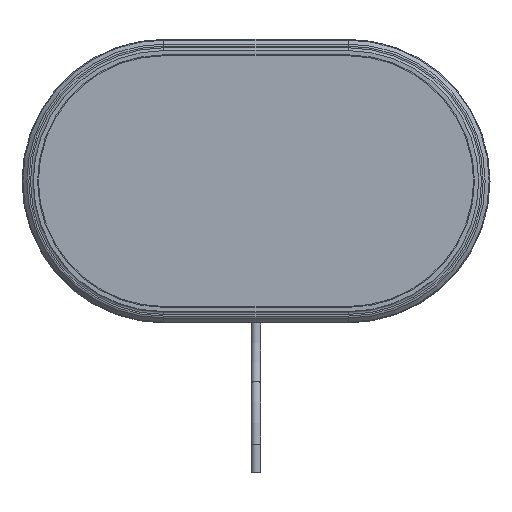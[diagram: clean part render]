
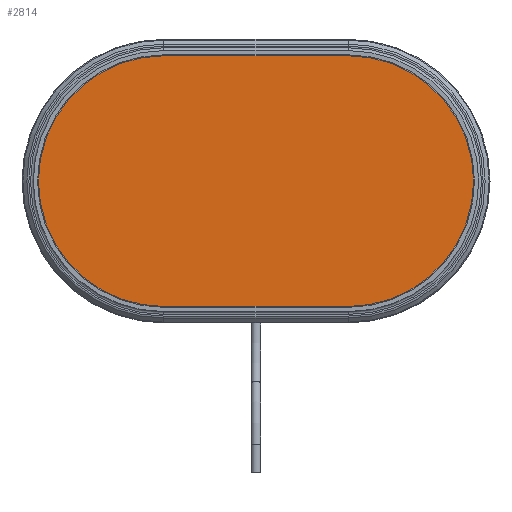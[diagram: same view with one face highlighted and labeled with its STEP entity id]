
A CAD part, front view. The second image highlights one B-rep face of the part: STEP entity #2814.
In plain terms, the highlighted planar face has unit normal (0, -1, 0).
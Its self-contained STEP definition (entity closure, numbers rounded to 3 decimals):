
#85 = CARTESIAN_POINT ( 'NONE',  ( -32.5, -3., 0. ) ) ;
#378 = VECTOR ( 'NONE', #10720, 1000. ) ;
#1189 = DIRECTION ( 'NONE',  ( 0., 1., 0. ) ) ;
#2105 = CARTESIAN_POINT ( 'NONE',  ( -32.5, -3., 44.2 ) ) ;
#2254 = EDGE_CURVE ( 'NONE', #2378, #13378, #5911, .T. ) ;
#2354 = CARTESIAN_POINT ( 'NONE',  ( 32.5, -3., -44.2 ) ) ;
#2378 = VERTEX_POINT ( 'NONE', #2354 ) ;
#2814 = ADVANCED_FACE ( 'NONE', ( #22762 ), #18251, .F. ) ;
#3522 = VECTOR ( 'NONE', #7893, 1000. ) ;
#4573 = CARTESIAN_POINT ( 'NONE',  ( -32.5, -3., 44.2 ) ) ;
#4675 = VERTEX_POINT ( 'NONE', #14355 ) ;
#5049 = EDGE_CURVE ( 'NONE', #13378, #17933, #9539, .T. ) ;
#5189 = AXIS2_PLACEMENT_3D ( 'NONE', #13874, #12028, #20634 ) ;
#5911 = LINE ( 'NONE', #11706, #3522 ) ;
#7893 = DIRECTION ( 'NONE',  ( -1., 0., 0. ) ) ;
#9398 = CARTESIAN_POINT ( 'NONE',  ( 32.5, -3., 0. ) ) ;
#9539 = CIRCLE ( 'NONE', #16763, 44.2 ) ;
#10720 = DIRECTION ( 'NONE',  ( 1., 0., 0. ) ) ;
#11078 = DIRECTION ( 'NONE',  ( 0., 1., 0. ) ) ;
#11706 = CARTESIAN_POINT ( 'NONE',  ( -32.5, -3., -44.2 ) ) ;
#12028 = DIRECTION ( 'NONE',  ( 0., 1., 0. ) ) ;
#12648 = ORIENTED_EDGE ( 'NONE', *, *, #14298, .F. ) ;
#13132 = LINE ( 'NONE', #2105, #378 ) ;
#13378 = VERTEX_POINT ( 'NONE', #18605 ) ;
#13874 = CARTESIAN_POINT ( 'NONE',  ( -32.5, -3., 0. ) ) ;
#14298 = EDGE_CURVE ( 'NONE', #17933, #4675, #13132, .T. ) ;
#14355 = CARTESIAN_POINT ( 'NONE',  ( 32.5, -3., 44.2 ) ) ;
#16763 = AXIS2_PLACEMENT_3D ( 'NONE', #85, #11078, #19705 ) ;
#17663 = ORIENTED_EDGE ( 'NONE', *, *, #2254, .F. ) ;
#17933 = VERTEX_POINT ( 'NONE', #4573 ) ;
#18251 = PLANE ( 'NONE',  #5189 ) ;
#18605 = CARTESIAN_POINT ( 'NONE',  ( -32.5, -3., -44.2 ) ) ;
#19705 = DIRECTION ( 'NONE',  ( 0., 0., 1. ) ) ;
#20327 = EDGE_LOOP ( 'NONE', ( #26819, #17663, #21438, #12648 ) ) ;
#20634 = DIRECTION ( 'NONE',  ( 0., 0., 1. ) ) ;
#21438 = ORIENTED_EDGE ( 'NONE', *, *, #24561, .F. ) ;
#21464 = AXIS2_PLACEMENT_3D ( 'NONE', #9398, #1189, #22383 ) ;
#22383 = DIRECTION ( 'NONE',  ( 0., 0., 1. ) ) ;
#22762 = FACE_OUTER_BOUND ( 'NONE', #20327, .T. ) ;
#24561 = EDGE_CURVE ( 'NONE', #4675, #2378, #25981, .T. ) ;
#25981 = CIRCLE ( 'NONE', #21464, 44.2 ) ;
#26819 = ORIENTED_EDGE ( 'NONE', *, *, #5049, .F. ) ;
